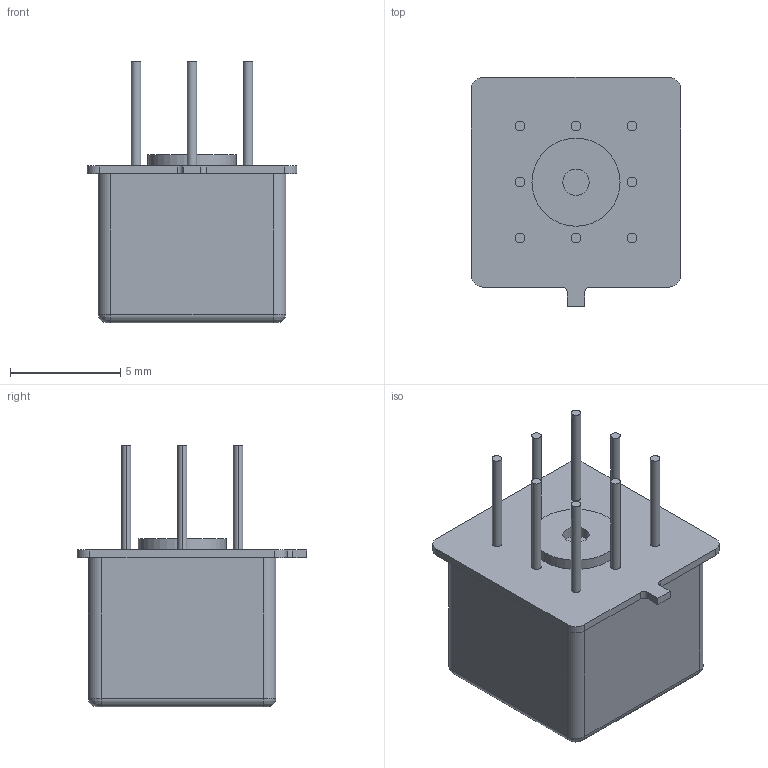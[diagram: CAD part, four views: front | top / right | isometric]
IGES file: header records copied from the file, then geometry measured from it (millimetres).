
Start section:  PTC IGES file: c-6-1617792-8-o-3d.igs
Global section: file name: c-6-1617792-8-o-3d.igs; native system: Creo Parametric by PTC Inc.; preprocessor: 2019292; author: workeradm; organization: Unknown; units: millimetre
Bounding box: 9.53 x 10.41 x 11.86 mm (x, y, z)
Surface area: 473.8 mm2 (no closed solid volume)
Topology: 0 solids, 0 shells, 63 faces, 284 edges, 284 vertices
Faces by surface type: revolution 38, bspline 25
